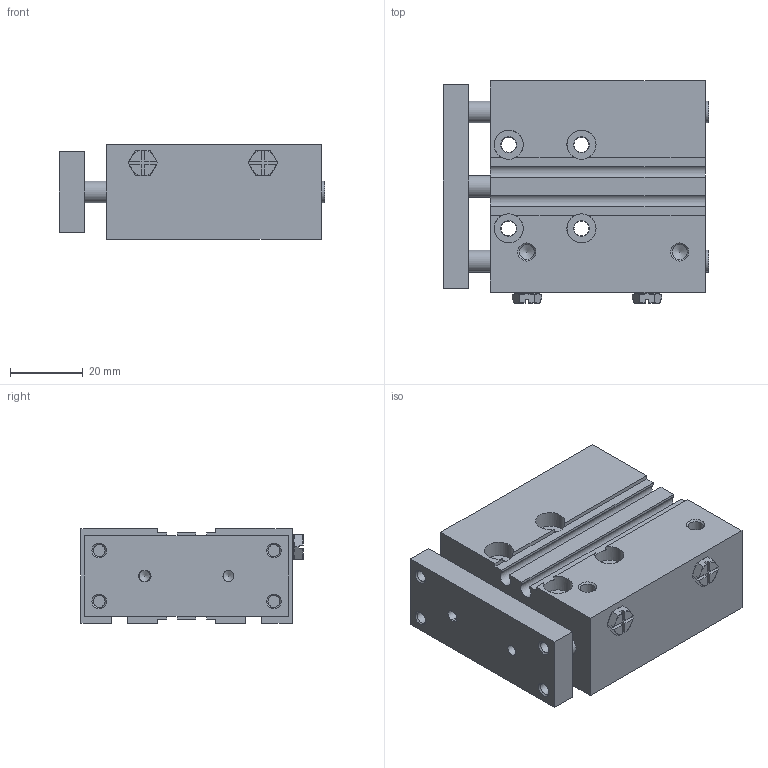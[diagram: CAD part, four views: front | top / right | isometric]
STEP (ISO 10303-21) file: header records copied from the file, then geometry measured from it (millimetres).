
FILE_DESCRIPTION(/* description */ ('STEP AP214'),/* implementation_level */ '2;1');
FILE_NAME(/* name */ 'MGPL12-30Z(0_0)',/* time_stamp */ '2025-09-03T15:27:03+02:00',/* author */ ('License CC BY-ND 4.0'),/* organization */ ('CADENAS'),/* preprocessor_version */ 'ST-DEVELOPER v19.3',/* originating_system */ 'PARTsolutions',/* authorisation */ ' ');
FILE_SCHEMA (('AUTOMOTIVE_DESIGN {1 0 10303 214 3 1 1}'));
Length unit declared in the file: millimetre
Products named in the file (4): MGPL12-30Z(0_0); MGPL12-30Z(0)_BODY; MGPL12-30Z(0)_ROD; M-5P_MGP
Assembly tree (4 placements, depth 2):
  MGPL12-30Z(0_0)
    MGPL12-30Z(0)_BODY
    MGPL12-30Z(0)_ROD
    M-5P_MGP  x2
Bounding box: 73 x 61 x 26 mm (x, y, z)
Volume: 83105.3 mm3; surface area: 30940.8 mm2
Topology: 4 solids, 4 shells, 244 faces, 596 edges, 376 vertices
Faces by surface type: plane 124, cone 66, cylinder 54
Full cylindrical faces by diameter (mm): 3 x6, 3.242 x8, 4.134 x8, 4.3 x4, 4.4 x2, 5 x2, 6 x8, 8 x4, 12 x2
Entity records: 5575 total; most frequent: CARTESIAN_POINT 1009, DIRECTION 926, ORIENTED_EDGE 798, EDGE_CURVE 399, AXIS2_PLACEMENT_3D 352, FACE_BOUND 326, EDGE_LOOP 312, VERTEX_POINT 307
